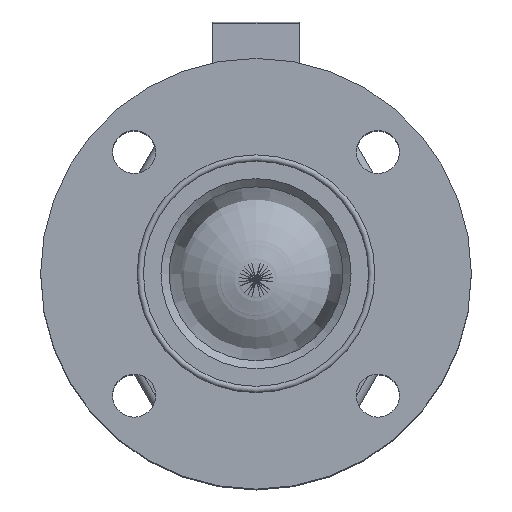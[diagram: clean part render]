
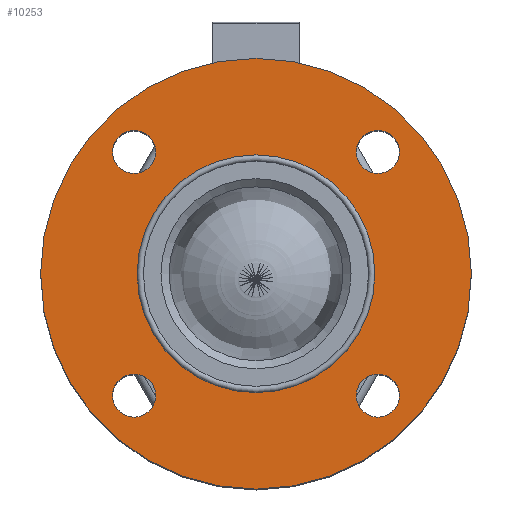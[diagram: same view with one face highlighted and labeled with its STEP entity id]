
A CAD part, top view. The second image highlights one B-rep face of the part: STEP entity #10253.
In plain terms, the highlighted planar face has unit normal (0, 0, 1).
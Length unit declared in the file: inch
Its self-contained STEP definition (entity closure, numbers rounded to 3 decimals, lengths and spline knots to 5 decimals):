
#2240=PLANE('',#2693);
#2390=CIRCLE('',#2689,9.525);
#2395=CIRCLE('',#2698,5.2578);
#2396=CIRCLE('',#2700,0.9525);
#2397=CIRCLE('',#2702,0.9525);
#2398=CIRCLE('',#2704,0.9525);
#2399=CIRCLE('',#2706,0.9525);
#2689=AXIS2_PLACEMENT_3D('',#11657,#4372,#4373);
#2693=AXIS2_PLACEMENT_3D('',#11664,#4380,$);
#2698=AXIS2_PLACEMENT_3D('',#11671,#4388,#4389);
#2700=AXIS2_PLACEMENT_3D('',#11674,#4392,#4393);
#2702=AXIS2_PLACEMENT_3D('',#11677,#4396,#4397);
#2704=AXIS2_PLACEMENT_3D('',#11680,#4400,#4401);
#2706=AXIS2_PLACEMENT_3D('',#11683,#4404,#4405);
#4372=DIRECTION('',(0.,0.,-1.));
#4373=DIRECTION('',(9.525,0.,0.));
#4380=DIRECTION('',(0.,0.,1.));
#4388=DIRECTION('',(0.,0.,-1.));
#4389=DIRECTION('',(5.258,0.,0.));
#4392=DIRECTION('',(0.,0.,-1.));
#4393=DIRECTION('',(0.,-0.953,0.));
#4396=DIRECTION('',(0.,0.,-1.));
#4397=DIRECTION('',(-0.953,0.,0.));
#4400=DIRECTION('',(0.,0.,-1.));
#4401=DIRECTION('',(0.,0.953,0.));
#4404=DIRECTION('',(0.,0.,-1.));
#4405=DIRECTION('',(0.953,0.,0.));
#5633=VERTEX_POINT('',#11658);
#5638=VERTEX_POINT('',#11672);
#5639=VERTEX_POINT('',#11675);
#5640=VERTEX_POINT('',#11678);
#5641=VERTEX_POINT('',#11681);
#5642=VERTEX_POINT('',#11684);
#6478=EDGE_CURVE('',#5633,#5633,#2390,.T.);
#6483=EDGE_CURVE('',#5638,#5638,#2395,.T.);
#6484=EDGE_CURVE('',#5639,#5639,#2396,.T.);
#6485=EDGE_CURVE('',#5640,#5640,#2397,.T.);
#6486=EDGE_CURVE('',#5641,#5641,#2398,.T.);
#6487=EDGE_CURVE('',#5642,#5642,#2399,.T.);
#7616=ORIENTED_EDGE('',*,*,#6483,.T.);
#7617=ORIENTED_EDGE('',*,*,#6484,.T.);
#7618=ORIENTED_EDGE('',*,*,#6485,.T.);
#7619=ORIENTED_EDGE('',*,*,#6486,.T.);
#7620=ORIENTED_EDGE('',*,*,#6487,.T.);
#7621=ORIENTED_EDGE('',*,*,#6478,.F.);
#9320=EDGE_LOOP('',(#7616));
#9321=EDGE_LOOP('',(#7617));
#9322=EDGE_LOOP('',(#7618));
#9323=EDGE_LOOP('',(#7619));
#9324=EDGE_LOOP('',(#7620));
#9325=EDGE_LOOP('',(#7621));
#9816=FACE_BOUND('',#9320,.T.);
#9817=FACE_BOUND('',#9321,.T.);
#9818=FACE_BOUND('',#9322,.T.);
#9819=FACE_BOUND('',#9323,.T.);
#9820=FACE_BOUND('',#9324,.T.);
#9821=FACE_BOUND('',#9325,.T.);
#10253=ADVANCED_FACE('',(#9816,#9817,#9818,#9819,#9820,#9821),#2240,.T.);
#11657=CARTESIAN_POINT('',(0.,0.,
7.3152));
#11658=CARTESIAN_POINT('',(9.525,0.,7.3152));
#11664=CARTESIAN_POINT('',(0.,0.,
7.3152));
#11671=CARTESIAN_POINT('',(0.,0.,7.3152));
#11672=CARTESIAN_POINT('',(0.,5.2578,7.3152));
#11674=CARTESIAN_POINT('',(5.38815,-5.38815,7.3152));
#11675=CARTESIAN_POINT('',(5.38815,-6.34065,7.3152));
#11677=CARTESIAN_POINT('',(-5.38815,-5.38815,7.3152));
#11678=CARTESIAN_POINT('',(-6.34065,-5.38815,7.3152));
#11680=CARTESIAN_POINT('',(-5.38815,5.38815,7.3152));
#11681=CARTESIAN_POINT('',(-5.38815,6.34065,7.3152));
#11683=CARTESIAN_POINT('',(5.38815,5.38815,7.3152));
#11684=CARTESIAN_POINT('',(6.34065,5.38815,7.3152));
